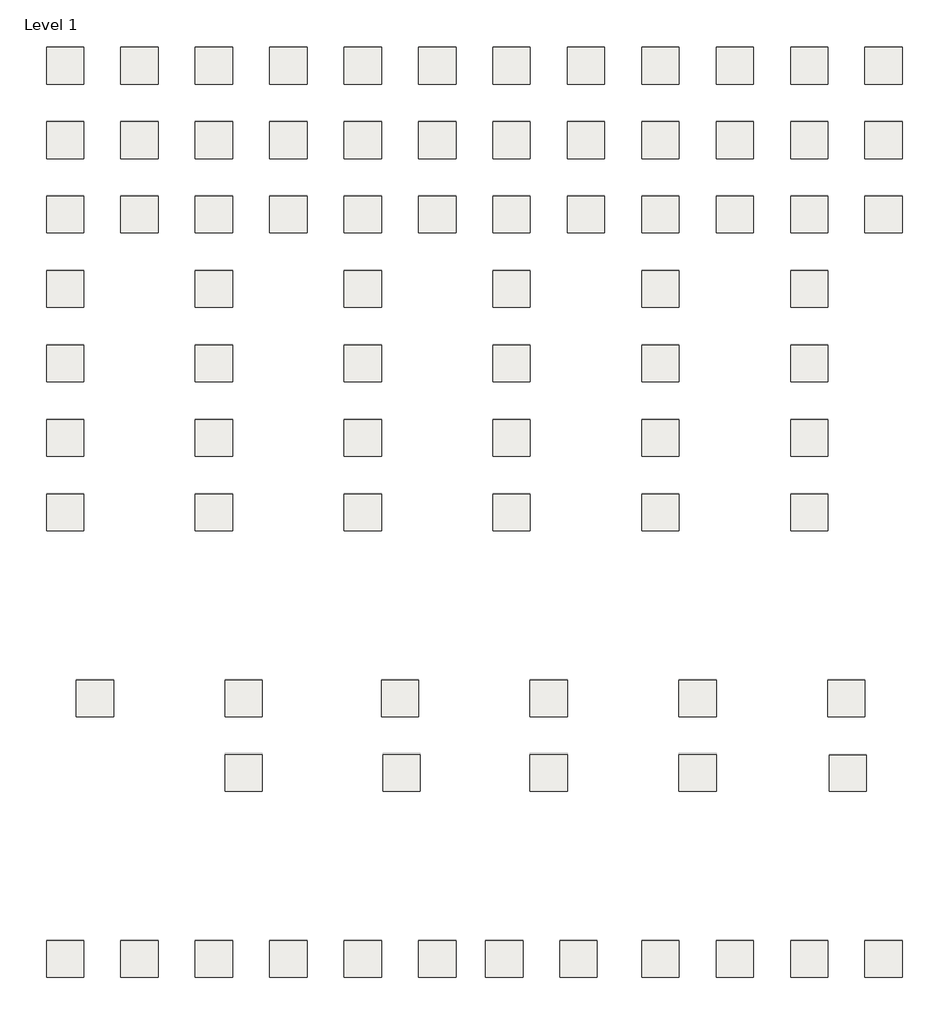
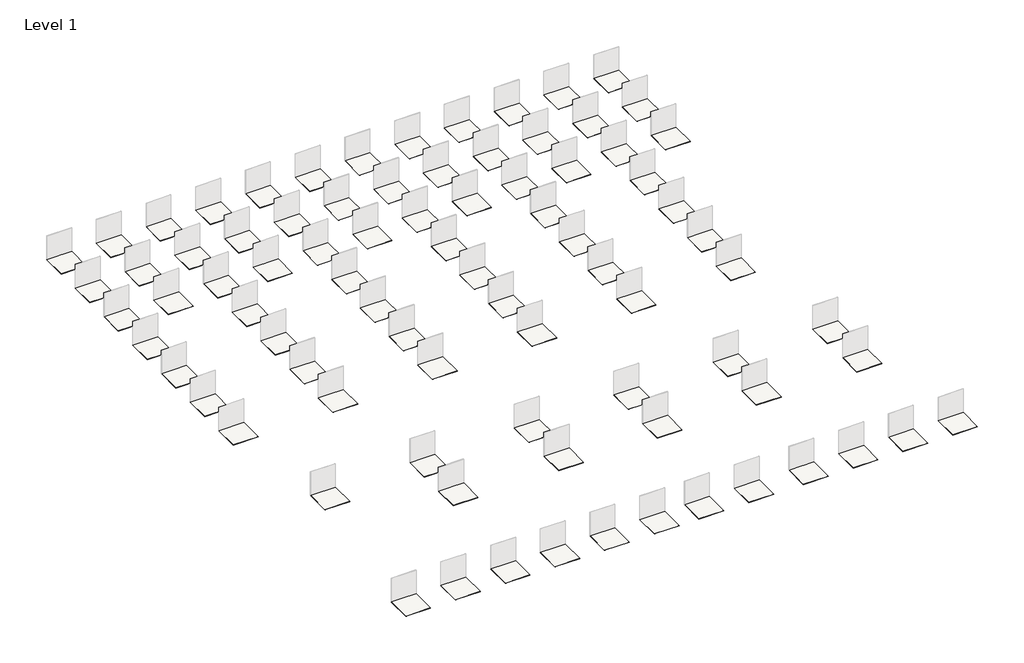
# One storey, part 2 of 2: 83 coverings.
"""IFC4 building model written with IfcOpenShell, lengths in millimetres."""

from ifc_helpers import new_model, si_unit, frame, origin, place, context, project, spatial, polyline, outline, extrude, element, save

model = new_model("IFC4")

# Units and contexts
model_context = context("Model", 3, world=origin())
ifc_project = project(units=[si_unit("LENGTHUNIT", "METRE", prefix="MILLI")], contexts=[model_context])

# Site, building, storey
site = spatial("IfcSite", under=ifc_project)
building = spatial("IfcBuilding", under=site)
storey = spatial("IfcBuildingStorey", under=building, Name="Level 1", Elevation=0.0)

# Coverings
placement = place(None, origin())
element("IfcCovering", 1, ObjectType="REVIGRES-URBAN-BASE-29,5X29,5-RECT-ANTRACITE", at=placement, inside=storey, context=model_context, shape_type="SweptSolid", body=[
    extrude(outline(polyline([(3778.642714, -1191.9242026), (3778.642714, -2191.9242026), (2778.642714, -2191.9242026), (2778.642714, -1191.9242026), (3778.642714, -1191.9242026)])), frame((0.0, 0.0, -7.7), z_axis=(0.0, 0.0, 1.0), x_axis=(1.0, 0.0, 0.0)), (0.0, 0.0, 1.0), 7.7),
])
element("IfcCovering", 2, ObjectType="REVIGRES-URBAN-BASE-30X30-NAT-ANTRACITE", at=placement, inside=storey, context=model_context, shape_type="SweptSolid", body=[
    extrude(outline(polyline([(5778.642714, -1191.9242026), (5778.642714, -2191.9242026), (4778.642714, -2191.9242026), (4778.642714, -1191.9242026), (5778.642714, -1191.9242026)])), frame((0.0, 0.0, -8.5), z_axis=(0.0, 0.0, 1.0), x_axis=(1.0, 0.0, 0.0)), (0.0, 0.0, 1.0), 8.5),
])
element("IfcCovering", 3, ObjectType="REVIGRES-URBAN-BASE-29,5X29,5-RECT-BONE", at=placement, inside=storey, context=model_context, shape_type="SweptSolid", body=[
    extrude(outline(polyline([(7778.642714, -1191.9242026), (7778.642714, -2191.9242026), (6778.642714, -2191.9242026), (6778.642714, -1191.9242026), (7778.642714, -1191.9242026)])), frame((0.0, 0.0, -7.7), z_axis=(0.0, 0.0, 1.0), x_axis=(1.0, 0.0, 0.0)), (0.0, 0.0, 1.0), 7.7),
])
element("IfcCovering", 4, ObjectType="REVIGRES-URBAN-BASE-30X30-NAT-BONE", at=placement, inside=storey, context=model_context, shape_type="SweptSolid", body=[
    extrude(outline(polyline([(9778.642714, -1191.9242026), (9778.642714, -2191.9242026), (8778.642714, -2191.9242026), (8778.642714, -1191.9242026), (9778.642714, -1191.9242026)])), frame((0.0, 0.0, -8.5), z_axis=(0.0, 0.0, 1.0), x_axis=(1.0, 0.0, 0.0)), (0.0, 0.0, 1.0), 8.5),
])
element("IfcCovering", 5, ObjectType="REVIGRES-URBAN-BASE-29,5X29,5-RECT-CRAFT", at=placement, inside=storey, context=model_context, shape_type="SweptSolid", body=[
    extrude(outline(polyline([(11778.642714, -1191.9242026), (11778.642714, -2191.9242026), (10778.642714, -2191.9242026), (10778.642714, -1191.9242026), (11778.642714, -1191.9242026)])), frame((0.0, 0.0, -7.7), z_axis=(0.0, 0.0, 1.0), x_axis=(1.0, 0.0, 0.0)), (0.0, 0.0, 1.0), 7.7),
])
element("IfcCovering", 6, ObjectType="REVIGRES-URBAN-BASE-30X30-NAT-CRAFT", at=placement, inside=storey, context=model_context, shape_type="SweptSolid", body=[
    extrude(outline(polyline([(13778.642714, -1191.9242026), (13778.642714, -2191.9242026), (12778.642714, -2191.9242026), (12778.642714, -1191.9242026), (13778.642714, -1191.9242026)])), frame((0.0, 0.0, -8.5), z_axis=(0.0, 0.0, 1.0), x_axis=(1.0, 0.0, 0.0)), (0.0, 0.0, 1.0), 8.5),
])
element("IfcCovering", 7, ObjectType="REVIGRES-URBAN-BASE-29,5X29,5-RECT-FOG", at=placement, inside=storey, context=model_context, shape_type="SweptSolid", body=[
    extrude(outline(polyline([(15778.642714, -1191.9242026), (15778.642714, -2191.9242026), (14778.642714, -2191.9242026), (14778.642714, -1191.9242026), (15778.642714, -1191.9242026)])), frame((0.0, 0.0, -7.7), z_axis=(0.0, 0.0, 1.0), x_axis=(1.0, 0.0, 0.0)), (0.0, 0.0, 1.0), 7.7),
])
element("IfcCovering", 8, ObjectType="REVIGRES-URBAN-BASE-30X30-NAT-FOG", at=placement, inside=storey, context=model_context, shape_type="SweptSolid", body=[
    extrude(outline(polyline([(17778.642714, -1191.9242026), (17778.642714, -2191.9242026), (16778.642714, -2191.9242026), (16778.642714, -1191.9242026), (17778.642714, -1191.9242026)])), frame((0.0, 0.0, -8.5), z_axis=(0.0, 0.0, 1.0), x_axis=(1.0, 0.0, 0.0)), (0.0, 0.0, 1.0), 8.5),
])
element("IfcCovering", 9, ObjectType="REVIGRES-URBAN-BASE-29,5X29,5-RECT-GRIS", at=placement, inside=storey, context=model_context, shape_type="SweptSolid", body=[
    extrude(outline(polyline([(19778.642714, -1191.9242026), (19778.642714, -2191.9242026), (18778.642714, -2191.9242026), (18778.642714, -1191.9242026), (19778.642714, -1191.9242026)])), frame((0.0, 0.0, -7.7), z_axis=(0.0, 0.0, 1.0), x_axis=(1.0, 0.0, 0.0)), (0.0, 0.0, 1.0), 7.7),
])
element("IfcCovering", 10, ObjectType="REVIGRES-URBAN-BASE-30X30-NAT-GRIS", at=placement, inside=storey, context=model_context, shape_type="SweptSolid", body=[
    extrude(outline(polyline([(21778.642714, -1191.9242026), (21778.642714, -2191.9242026), (20778.642714, -2191.9242026), (20778.642714, -1191.9242026), (21778.642714, -1191.9242026)])), frame((0.0, 0.0, -8.5), z_axis=(0.0, 0.0, 1.0), x_axis=(1.0, 0.0, 0.0)), (0.0, 0.0, 1.0), 8.5),
])
element("IfcCovering", 11, ObjectType="REVIGRES-URBAN-BASE-29,5X29,5-RECT-OFFWHITE", at=placement, inside=storey, context=model_context, shape_type="SweptSolid", body=[
    extrude(outline(polyline([(23778.642714, -1191.9242026), (23778.642714, -2191.9242026), (22778.642714, -2191.9242026), (22778.642714, -1191.9242026), (23778.642714, -1191.9242026)])), frame((0.0, 0.0, -7.7), z_axis=(0.0, 0.0, 1.0), x_axis=(1.0, 0.0, 0.0)), (0.0, 0.0, 1.0), 7.7),
])
element("IfcCovering", 12, ObjectType="REVIGRES-URBAN-BASE-29,5X59,2-RECT-ANTRACITE", at=placement, inside=storey, context=model_context, shape_type="SweptSolid", body=[
    extrude(outline(polyline([(3778.642714, -3191.9242026), (3778.642714, -4191.9242026), (2778.642714, -4191.9242026), (2778.642714, -3191.9242026), (3778.642714, -3191.9242026)])), frame((0.0, 0.0, -8.5), z_axis=(0.0, 0.0, 1.0), x_axis=(1.0, 0.0, 0.0)), (0.0, 0.0, 1.0), 8.5),
])
element("IfcCovering", 13, ObjectType="REVIGRES-URBAN-BASE-29,5X59,2-RECT-BONE", at=placement, inside=storey, context=model_context, shape_type="SweptSolid", body=[
    extrude(outline(polyline([(7778.642714, -3191.9242026), (7778.642714, -4191.9242026), (6778.642714, -4191.9242026), (6778.642714, -3191.9242026), (7778.642714, -3191.9242026)])), frame((0.0, 0.0, -8.5), z_axis=(0.0, 0.0, 1.0), x_axis=(1.0, 0.0, 0.0)), (0.0, 0.0, 1.0), 8.5),
])
element("IfcCovering", 14, ObjectType="REVIGRES-URBAN-BASE-29,5X59,2-RECT-CRAFT", at=placement, inside=storey, context=model_context, shape_type="SweptSolid", body=[
    extrude(outline(polyline([(11778.642714, -3191.9242026), (11778.642714, -4191.9242026), (10778.642714, -4191.9242026), (10778.642714, -3191.9242026), (11778.642714, -3191.9242026)])), frame((0.0, 0.0, -8.5), z_axis=(0.0, 0.0, 1.0), x_axis=(1.0, 0.0, 0.0)), (0.0, 0.0, 1.0), 8.5),
])
element("IfcCovering", 15, ObjectType="REVIGRES-URBAN-BASE-29,5X59,2-RECT-FOG", at=placement, inside=storey, context=model_context, shape_type="SweptSolid", body=[
    extrude(outline(polyline([(15778.642714, -3191.9242026), (15778.642714, -4191.9242026), (14778.642714, -4191.9242026), (14778.642714, -3191.9242026), (15778.642714, -3191.9242026)])), frame((0.0, 0.0, -8.5), z_axis=(0.0, 0.0, 1.0), x_axis=(1.0, 0.0, 0.0)), (0.0, 0.0, 1.0), 8.5),
])
element("IfcCovering", 16, ObjectType="REVIGRES-URBAN-BASE-29,5X59,2-RECT-GRIS", at=placement, inside=storey, context=model_context, shape_type="SweptSolid", body=[
    extrude(outline(polyline([(19778.642714, -3191.9242026), (19778.642714, -4191.9242026), (18778.642714, -4191.9242026), (18778.642714, -3191.9242026), (19778.642714, -3191.9242026)])), frame((0.0, 0.0, -8.5), z_axis=(0.0, 0.0, 1.0), x_axis=(1.0, 0.0, 0.0)), (0.0, 0.0, 1.0), 8.5),
])
element("IfcCovering", 17, ObjectType="REVIGRES-URBAN-BASE-29,5X59,2-RECT-OFFWHITE", at=placement, inside=storey, context=model_context, shape_type="SweptSolid", body=[
    extrude(outline(polyline([(23778.642714, -3191.9242026), (23778.642714, -4191.9242026), (22778.642714, -4191.9242026), (22778.642714, -3191.9242026), (23778.642714, -3191.9242026)])), frame((0.0, 0.0, -8.5), z_axis=(0.0, 0.0, 1.0), x_axis=(1.0, 0.0, 0.0)), (0.0, 0.0, 1.0), 8.5),
])
element("IfcCovering", 18, ObjectType="REVIGRES-URBAN-BASE-44,35X44,35-RECT-ANTRACITE", at=placement, inside=storey, context=model_context, shape_type="SweptSolid", body=[
    extrude(outline(polyline([(3778.642714, -5191.9242026), (3778.642714, -6191.9242026), (2778.642714, -6191.9242026), (2778.642714, -5191.9242026), (3778.642714, -5191.9242026)])), frame((0.0, 0.0, -8.5), z_axis=(0.0, 0.0, 1.0), x_axis=(1.0, 0.0, 0.0)), (0.0, 0.0, 1.0), 8.5),
])
element("IfcCovering", 19, ObjectType="REVIGRES-URBAN-BASE-45X45-NAT-ANTRACITE", at=placement, inside=storey, context=model_context, shape_type="SweptSolid", body=[
    extrude(outline(polyline([(5778.642714, -5191.9242026), (5778.642714, -6191.9242026), (4778.642714, -6191.9242026), (4778.642714, -5191.9242026), (5778.642714, -5191.9242026)])), frame((0.0, 0.0, -8.5), z_axis=(0.0, 0.0, 1.0), x_axis=(1.0, 0.0, 0.0)), (0.0, 0.0, 1.0), 8.5),
])
element("IfcCovering", 20, ObjectType="REVIGRES-URBAN-BASE-44,35X44,35-RECT-BONE", at=placement, inside=storey, context=model_context, shape_type="SweptSolid", body=[
    extrude(outline(polyline([(7778.642714, -5191.9242026), (7778.642714, -6191.9242026), (6778.642714, -6191.9242026), (6778.642714, -5191.9242026), (7778.642714, -5191.9242026)])), frame((0.0, 0.0, -8.5), z_axis=(0.0, 0.0, 1.0), x_axis=(1.0, 0.0, 0.0)), (0.0, 0.0, 1.0), 8.5),
])
element("IfcCovering", 21, ObjectType="REVIGRES-URBAN-BASE-45X45-NAT-BONE", at=placement, inside=storey, context=model_context, shape_type="SweptSolid", body=[
    extrude(outline(polyline([(9778.642714, -5191.9242026), (9778.642714, -6191.9242026), (8778.642714, -6191.9242026), (8778.642714, -5191.9242026), (9778.642714, -5191.9242026)])), frame((0.0, 0.0, -8.5), z_axis=(0.0, 0.0, 1.0), x_axis=(1.0, 0.0, 0.0)), (0.0, 0.0, 1.0), 8.5),
])
element("IfcCovering", 22, ObjectType="REVIGRES-URBAN-BASE-44,35X44,35-RECT-CRAFT", at=placement, inside=storey, context=model_context, shape_type="SweptSolid", body=[
    extrude(outline(polyline([(11778.642714, -5191.9242026), (11778.642714, -6191.9242026), (10778.642714, -6191.9242026), (10778.642714, -5191.9242026), (11778.642714, -5191.9242026)])), frame((0.0, 0.0, -8.5), z_axis=(0.0, 0.0, 1.0), x_axis=(1.0, 0.0, 0.0)), (0.0, 0.0, 1.0), 8.5),
])
element("IfcCovering", 23, ObjectType="REVIGRES-URBAN-BASE-45X45-NAT-CRAFT", at=placement, inside=storey, context=model_context, shape_type="SweptSolid", body=[
    extrude(outline(polyline([(13778.642714, -5191.9242026), (13778.642714, -6191.9242026), (12778.642714, -6191.9242026), (12778.642714, -5191.9242026), (13778.642714, -5191.9242026)])), frame((0.0, 0.0, -8.5), z_axis=(0.0, 0.0, 1.0), x_axis=(1.0, 0.0, 0.0)), (0.0, 0.0, 1.0), 8.5),
])
element("IfcCovering", 24, ObjectType="REVIGRES-URBAN-BASE-44,35X44,35-RECT-FOG", at=placement, inside=storey, context=model_context, shape_type="SweptSolid", body=[
    extrude(outline(polyline([(15778.642714, -5191.9242026), (15778.642714, -6191.9242026), (14778.642714, -6191.9242026), (14778.642714, -5191.9242026), (15778.642714, -5191.9242026)])), frame((0.0, 0.0, -8.5), z_axis=(0.0, 0.0, 1.0), x_axis=(1.0, 0.0, 0.0)), (0.0, 0.0, 1.0), 8.5),
])
element("IfcCovering", 25, ObjectType="REVIGRES-URBAN-BASE-45X45-NAT-FOG", at=placement, inside=storey, context=model_context, shape_type="SweptSolid", body=[
    extrude(outline(polyline([(17778.642714, -5191.9242026), (17778.642714, -6191.9242026), (16778.642714, -6191.9242026), (16778.642714, -5191.9242026), (17778.642714, -5191.9242026)])), frame((0.0, 0.0, -8.5), z_axis=(0.0, 0.0, 1.0), x_axis=(1.0, 0.0, 0.0)), (0.0, 0.0, 1.0), 8.5),
])
element("IfcCovering", 26, ObjectType="REVIGRES-URBAN-BASE-44,35X44,35-RECT-GRIS", at=placement, inside=storey, context=model_context, shape_type="SweptSolid", body=[
    extrude(outline(polyline([(19778.642714, -5191.9242026), (19778.642714, -6191.9242026), (18778.642714, -6191.9242026), (18778.642714, -5191.9242026), (19778.642714, -5191.9242026)])), frame((0.0, 0.0, -8.5), z_axis=(0.0, 0.0, 1.0), x_axis=(1.0, 0.0, 0.0)), (0.0, 0.0, 1.0), 8.5),
])
element("IfcCovering", 27, ObjectType="REVIGRES-URBAN-BASE-45X45-NAT-GRIS", at=placement, inside=storey, context=model_context, shape_type="SweptSolid", body=[
    extrude(outline(polyline([(21778.642714, -5191.9242026), (21778.642714, -6191.9242026), (20778.642714, -6191.9242026), (20778.642714, -5191.9242026), (21778.642714, -5191.9242026)])), frame((0.0, 0.0, -8.5), z_axis=(0.0, 0.0, 1.0), x_axis=(1.0, 0.0, 0.0)), (0.0, 0.0, 1.0), 8.5),
])
element("IfcCovering", 28, ObjectType="REVIGRES-URBAN-BASE-44,35X44,35-RECT-OFFWHITE", at=placement, inside=storey, context=model_context, shape_type="SweptSolid", body=[
    extrude(outline(polyline([(23778.642714, -5191.9242026), (23778.642714, -6191.9242026), (22778.642714, -6191.9242026), (22778.642714, -5191.9242026), (23778.642714, -5191.9242026)])), frame((0.0, 0.0, -8.5), z_axis=(0.0, 0.0, 1.0), x_axis=(1.0, 0.0, 0.0)), (0.0, 0.0, 1.0), 8.5),
])
element("IfcCovering", 29, ObjectType="REVIGRES-URBAN-BASE-44,35X88,9-RECT-ANTRACITE", at=placement, inside=storey, context=model_context, shape_type="SweptSolid", body=[
    extrude(outline(polyline([(3778.642714, -7191.9242026), (3778.642714, -8191.9242026), (2778.642714, -8191.9242026), (2778.642714, -7191.9242026), (3778.642714, -7191.9242026)])), frame((0.0, 0.0, -10.5), z_axis=(0.0, 0.0, 1.0), x_axis=(1.0, 0.0, 0.0)), (0.0, 0.0, 1.0), 10.5),
])
element("IfcCovering", 30, ObjectType="REVIGRES-URBAN-BASE-44,35X88,9-RECT-BONE", at=placement, inside=storey, context=model_context, shape_type="SweptSolid", body=[
    extrude(outline(polyline([(7778.642714, -7191.9242026), (7778.642714, -8191.9242026), (6778.642714, -8191.9242026), (6778.642714, -7191.9242026), (7778.642714, -7191.9242026)])), frame((0.0, 0.0, -10.5), z_axis=(0.0, 0.0, 1.0), x_axis=(1.0, 0.0, 0.0)), (0.0, 0.0, 1.0), 10.5),
])
element("IfcCovering", 31, ObjectType="REVIGRES-URBAN-BASE-44,35X88,9-RECT-CRAFT", at=placement, inside=storey, context=model_context, shape_type="SweptSolid", body=[
    extrude(outline(polyline([(11778.642714, -7191.9242026), (11778.642714, -8191.9242026), (10778.642714, -8191.9242026), (10778.642714, -7191.9242026), (11778.642714, -7191.9242026)])), frame((0.0, 0.0, -10.5), z_axis=(0.0, 0.0, 1.0), x_axis=(1.0, 0.0, 0.0)), (0.0, 0.0, 1.0), 10.5),
])
element("IfcCovering", 32, ObjectType="REVIGRES-URBAN-BASE-44,35X88,9-RECT-FOG", at=placement, inside=storey, context=model_context, shape_type="SweptSolid", body=[
    extrude(outline(polyline([(15778.642714, -7191.9242026), (15778.642714, -8191.9242026), (14778.642714, -8191.9242026), (14778.642714, -7191.9242026), (15778.642714, -7191.9242026)])), frame((0.0, 0.0, -10.5), z_axis=(0.0, 0.0, 1.0), x_axis=(1.0, 0.0, 0.0)), (0.0, 0.0, 1.0), 10.5),
])
element("IfcCovering", 33, ObjectType="REVIGRES-URBAN-BASE-44,35X88,9-RECT-GRIS", at=placement, inside=storey, context=model_context, shape_type="SweptSolid", body=[
    extrude(outline(polyline([(19778.642714, -7191.9242026), (19778.642714, -8191.9242026), (18778.642714, -8191.9242026), (18778.642714, -7191.9242026), (19778.642714, -7191.9242026)])), frame((0.0, 0.0, -10.5), z_axis=(0.0, 0.0, 1.0), x_axis=(1.0, 0.0, 0.0)), (0.0, 0.0, 1.0), 10.5),
])
element("IfcCovering", 34, ObjectType="REVIGRES-URBAN-BASE-44,35X88,9-RECT-OFFWHITE", at=placement, inside=storey, context=model_context, shape_type="SweptSolid", body=[
    extrude(outline(polyline([(23778.642714, -7191.9242026), (23778.642714, -8191.9242026), (22778.642714, -8191.9242026), (22778.642714, -7191.9242026), (23778.642714, -7191.9242026)])), frame((0.0, 0.0, -10.5), z_axis=(0.0, 0.0, 1.0), x_axis=(1.0, 0.0, 0.0)), (0.0, 0.0, 1.0), 10.5),
])
element("IfcCovering", 35, ObjectType="REVIGRES-URBAN-BASE-59,2X59,2-RECT-ANTRACITE", at=placement, inside=storey, context=model_context, shape_type="SweptSolid", body=[
    extrude(outline(polyline([(3778.642714, -9191.9242026), (3778.642714, -10191.9242026), (2778.642714, -10191.9242026), (2778.642714, -9191.9242026), (3778.642714, -9191.9242026)])), frame((0.0, 0.0, -10.5), z_axis=(0.0, 0.0, 1.0), x_axis=(1.0, 0.0, 0.0)), (0.0, 0.0, 1.0), 10.5),
])
element("IfcCovering", 36, ObjectType="REVIGRES-URBAN-BASE-59,2X59,2-RECT-BONE", at=placement, inside=storey, context=model_context, shape_type="SweptSolid", body=[
    extrude(outline(polyline([(7778.642714, -9191.9242026), (7778.642714, -10191.9242026), (6778.642714, -10191.9242026), (6778.642714, -9191.9242026), (7778.642714, -9191.9242026)])), frame((0.0, 0.0, -10.5), z_axis=(0.0, 0.0, 1.0), x_axis=(1.0, 0.0, 0.0)), (0.0, 0.0, 1.0), 10.5),
])
element("IfcCovering", 37, ObjectType="REVIGRES-URBAN-BASE-59,2X59,2-RECT-CRAFT", at=placement, inside=storey, context=model_context, shape_type="SweptSolid", body=[
    extrude(outline(polyline([(11778.642714, -9191.9242026), (11778.642714, -10191.9242026), (10778.642714, -10191.9242026), (10778.642714, -9191.9242026), (11778.642714, -9191.9242026)])), frame((0.0, 0.0, -10.5), z_axis=(0.0, 0.0, 1.0), x_axis=(1.0, 0.0, 0.0)), (0.0, 0.0, 1.0), 10.5),
])
element("IfcCovering", 38, ObjectType="REVIGRES-URBAN-BASE-59,2X59,2-RECT-FOG", at=placement, inside=storey, context=model_context, shape_type="SweptSolid", body=[
    extrude(outline(polyline([(15778.642714, -9191.9242026), (15778.642714, -10191.9242026), (14778.642714, -10191.9242026), (14778.642714, -9191.9242026), (15778.642714, -9191.9242026)])), frame((0.0, 0.0, -10.5), z_axis=(0.0, 0.0, 1.0), x_axis=(1.0, 0.0, 0.0)), (0.0, 0.0, 1.0), 10.5),
])
element("IfcCovering", 39, ObjectType="REVIGRES-URBAN-BASE-59,2X59,2-RECT-GRIS", at=placement, inside=storey, context=model_context, shape_type="SweptSolid", body=[
    extrude(outline(polyline([(19778.642714, -9191.9242026), (19778.642714, -10191.9242026), (18778.642714, -10191.9242026), (18778.642714, -9191.9242026), (19778.642714, -9191.9242026)])), frame((0.0, 0.0, -10.5), z_axis=(0.0, 0.0, 1.0), x_axis=(1.0, 0.0, 0.0)), (0.0, 0.0, 1.0), 10.5),
])
element("IfcCovering", 40, ObjectType="REVIGRES-URBAN-BASE-59,2X59,2-RECT-OFFWHITE", at=placement, inside=storey, context=model_context, shape_type="SweptSolid", body=[
    extrude(outline(polyline([(23778.642714, -9191.9242026), (23778.642714, -10191.9242026), (22778.642714, -10191.9242026), (22778.642714, -9191.9242026), (23778.642714, -9191.9242026)])), frame((0.0, 0.0, -10.5), z_axis=(0.0, 0.0, 1.0), x_axis=(1.0, 0.0, 0.0)), (0.0, 0.0, 1.0), 10.5),
])
element("IfcCovering", 41, ObjectType="REVIGRES-URBAN-BASE-59,2X118,6-RECT-ANTRACITE", at=placement, inside=storey, context=model_context, shape_type="SweptSolid", body=[
    extrude(outline(polyline([(3778.642714, -11191.9242026), (3778.642714, -12191.9242026), (2778.642714, -12191.9242026), (2778.642714, -11191.9242026), (3778.642714, -11191.9242026)])), frame((0.0, 0.0, -9.8), z_axis=(0.0, 0.0, 1.0), x_axis=(1.0, 0.0, 0.0)), (0.0, 0.0, 1.0), 9.8),
])
element("IfcCovering", 42, ObjectType="REVIGRES-URBAN-BASE-59,2X118,6-RECT-BONE", at=placement, inside=storey, context=model_context, shape_type="SweptSolid", body=[
    extrude(outline(polyline([(7778.642714, -11191.9242026), (7778.642714, -12191.9242026), (6778.642714, -12191.9242026), (6778.642714, -11191.9242026), (7778.642714, -11191.9242026)])), frame((0.0, 0.0, -9.8), z_axis=(0.0, 0.0, 1.0), x_axis=(1.0, 0.0, 0.0)), (0.0, 0.0, 1.0), 9.8),
])
element("IfcCovering", 43, ObjectType="REVIGRES-URBAN-BASE-59,2X118,6-RECT-CRAFT", at=placement, inside=storey, context=model_context, shape_type="SweptSolid", body=[
    extrude(outline(polyline([(11778.642714, -11191.9242026), (11778.642714, -12191.9242026), (10778.642714, -12191.9242026), (10778.642714, -11191.9242026), (11778.642714, -11191.9242026)])), frame((0.0, 0.0, -9.8), z_axis=(0.0, 0.0, 1.0), x_axis=(1.0, 0.0, 0.0)), (0.0, 0.0, 1.0), 9.8),
])
element("IfcCovering", 44, ObjectType="REVIGRES-URBAN-BASE-59,2X118,6-RECT-FOG", at=placement, inside=storey, context=model_context, shape_type="SweptSolid", body=[
    extrude(outline(polyline([(15778.642714, -11191.9242026), (15778.642714, -12191.9242026), (14778.642714, -12191.9242026), (14778.642714, -11191.9242026), (15778.642714, -11191.9242026)])), frame((0.0, 0.0, -9.8), z_axis=(0.0, 0.0, 1.0), x_axis=(1.0, 0.0, 0.0)), (0.0, 0.0, 1.0), 9.8),
])
element("IfcCovering", 45, ObjectType="REVIGRES-URBAN-BASE-59,2X118,6-RECT-GRIS", at=placement, inside=storey, context=model_context, shape_type="SweptSolid", body=[
    extrude(outline(polyline([(19778.642714, -11191.9242026), (19778.642714, -12191.9242026), (18778.642714, -12191.9242026), (18778.642714, -11191.9242026), (19778.642714, -11191.9242026)])), frame((0.0, 0.0, -9.8), z_axis=(0.0, 0.0, 1.0), x_axis=(1.0, 0.0, 0.0)), (0.0, 0.0, 1.0), 9.8),
])
element("IfcCovering", 46, ObjectType="REVIGRES-URBAN-BASE-59,2X118,6-RECT-OFFWHITE", at=placement, inside=storey, context=model_context, shape_type="SweptSolid", body=[
    extrude(outline(polyline([(23778.642714, -11191.9242026), (23778.642714, -12191.9242026), (22778.642714, -12191.9242026), (22778.642714, -11191.9242026), (23778.642714, -11191.9242026)])), frame((0.0, 0.0, -9.8), z_axis=(0.0, 0.0, 1.0), x_axis=(1.0, 0.0, 0.0)), (0.0, 0.0, 1.0), 9.8),
])
element("IfcCovering", 47, ObjectType="REVIGRES-URBAN-BASE-88,9X88,9-RECT-ANTRACITE", at=placement, inside=storey, context=model_context, shape_type="SweptSolid", body=[
    extrude(outline(polyline([(3778.642714, -13191.9242026), (3778.642714, -14191.9242026), (2778.642714, -14191.9242026), (2778.642714, -13191.9242026), (3778.642714, -13191.9242026)])), frame((0.0, 0.0, -10.5), z_axis=(0.0, 0.0, 1.0), x_axis=(1.0, 0.0, 0.0)), (0.0, 0.0, 1.0), 10.5),
])
element("IfcCovering", 48, ObjectType="REVIGRES-URBAN-BASE-88,9X88,9-RECT-BONE", at=placement, inside=storey, context=model_context, shape_type="SweptSolid", body=[
    extrude(outline(polyline([(7778.642714, -13191.9242026), (7778.642714, -14191.9242026), (6778.642714, -14191.9242026), (6778.642714, -13191.9242026), (7778.642714, -13191.9242026)])), frame((0.0, 0.0, -10.5), z_axis=(0.0, 0.0, 1.0), x_axis=(1.0, 0.0, 0.0)), (0.0, 0.0, 1.0), 10.5),
])
element("IfcCovering", 49, ObjectType="REVIGRES-URBAN-BASE-88,9X88,9-RECT-CRAFT", at=placement, inside=storey, context=model_context, shape_type="SweptSolid", body=[
    extrude(outline(polyline([(11778.642714, -13191.9242026), (11778.642714, -14191.9242026), (10778.642714, -14191.9242026), (10778.642714, -13191.9242026), (11778.642714, -13191.9242026)])), frame((0.0, 0.0, -10.5), z_axis=(0.0, 0.0, 1.0), x_axis=(1.0, 0.0, 0.0)), (0.0, 0.0, 1.0), 10.5),
])
element("IfcCovering", 50, ObjectType="REVIGRES-URBAN-BASE-88,9X88,9-RECT-FOG", at=placement, inside=storey, context=model_context, shape_type="SweptSolid", body=[
    extrude(outline(polyline([(15778.642714, -13191.9242026), (15778.642714, -14191.9242026), (14778.642714, -14191.9242026), (14778.642714, -13191.9242026), (15778.642714, -13191.9242026)])), frame((0.0, 0.0, -10.5), z_axis=(0.0, 0.0, 1.0), x_axis=(1.0, 0.0, 0.0)), (0.0, 0.0, 1.0), 10.5),
])
element("IfcCovering", 51, ObjectType="REVIGRES-URBAN-BASE-88,9X88,9-RECT-GRIS", at=placement, inside=storey, context=model_context, shape_type="SweptSolid", body=[
    extrude(outline(polyline([(19778.642714, -13191.9242026), (19778.642714, -14191.9242026), (18778.642714, -14191.9242026), (18778.642714, -13191.9242026), (19778.642714, -13191.9242026)])), frame((0.0, 0.0, -10.5), z_axis=(0.0, 0.0, 1.0), x_axis=(1.0, 0.0, 0.0)), (0.0, 0.0, 1.0), 10.5),
])
element("IfcCovering", 52, ObjectType="REVIGRES-URBAN-BASE-88,9X88,9-RECT-OFFWHITE", at=placement, inside=storey, context=model_context, shape_type="SweptSolid", body=[
    extrude(outline(polyline([(23778.642714, -13191.9242026), (23778.642714, -14191.9242026), (22778.642714, -14191.9242026), (22778.642714, -13191.9242026), (23778.642714, -13191.9242026)])), frame((0.0, 0.0, -10.5), z_axis=(0.0, 0.0, 1.0), x_axis=(1.0, 0.0, 0.0)), (0.0, 0.0, 1.0), 10.5),
])
element("IfcCovering", 53, ObjectType="REVIGRES-URBAN-BASE-30X30-NAT-OFFWHITE", at=placement, inside=storey, context=model_context, shape_type="SweptSolid", body=[
    extrude(outline(polyline([(25778.642714, -1191.9242026), (25778.642714, -2191.9242026), (24778.642714, -2191.9242026), (24778.642714, -1191.9242026), (25778.642714, -1191.9242026)])), frame((0.0, 0.0, -8.5), z_axis=(0.0, 0.0, 1.0), x_axis=(1.0, 0.0, 0.0)), (0.0, 0.0, 1.0), 8.5),
])
element("IfcCovering", 54, ObjectType="REVIGRES-URBAN-BASE-45X45-NAT-OFFWHITE", at=placement, inside=storey, context=model_context, shape_type="SweptSolid", body=[
    extrude(outline(polyline([(25778.642714, -5191.9242026), (25778.642714, -6191.9242026), (24778.642714, -6191.9242026), (24778.642714, -5191.9242026), (25778.642714, -5191.9242026)])), frame((0.0, 0.0, -8.5), z_axis=(0.0, 0.0, 1.0), x_axis=(1.0, 0.0, 0.0)), (0.0, 0.0, 1.0), 8.5),
])
element("IfcCovering", 55, ObjectType="REVIGRES-URBAN-BASE-30X60-NAT-ANTRACITE", at=placement, inside=storey, context=model_context, shape_type="SweptSolid", body=[
    extrude(outline(polyline([(5778.642714, -3191.9242026), (5778.642714, -4191.9242026), (4778.642714, -4191.9242026), (4778.642714, -3191.9242026), (5778.642714, -3191.9242026)])), frame((0.0, 0.0, -8.5), z_axis=(0.0, 0.0, 1.0), x_axis=(1.0, 0.0, 0.0)), (0.0, 0.0, 1.0), 8.5),
])
element("IfcCovering", 56, ObjectType="REVIGRES-URBAN-BASE-30X60-NAT-BONE", at=placement, inside=storey, context=model_context, shape_type="SweptSolid", body=[
    extrude(outline(polyline([(9778.642714, -3191.9242026), (9778.642714, -4191.9242026), (8778.642714, -4191.9242026), (8778.642714, -3191.9242026), (9778.642714, -3191.9242026)])), frame((0.0, 0.0, -8.5), z_axis=(0.0, 0.0, 1.0), x_axis=(1.0, 0.0, 0.0)), (0.0, 0.0, 1.0), 8.5),
])
element("IfcCovering", 57, ObjectType="REVIGRES-URBAN-BASE-30X60-NAT-CRAFT", at=placement, inside=storey, context=model_context, shape_type="SweptSolid", body=[
    extrude(outline(polyline([(13778.642714, -3191.9242026), (13778.642714, -4191.9242026), (12778.642714, -4191.9242026), (12778.642714, -3191.9242026), (13778.642714, -3191.9242026)])), frame((0.0, 0.0, -8.5), z_axis=(0.0, 0.0, 1.0), x_axis=(1.0, 0.0, 0.0)), (0.0, 0.0, 1.0), 8.5),
])
element("IfcCovering", 58, ObjectType="REVIGRES-URBAN-BASE-30X60-NAT-FOG", at=placement, inside=storey, context=model_context, shape_type="SweptSolid", body=[
    extrude(outline(polyline([(17778.642714, -3191.9242026), (17778.642714, -4191.9242026), (16778.642714, -4191.9242026), (16778.642714, -3191.9242026), (17778.642714, -3191.9242026)])), frame((0.0, 0.0, -8.5), z_axis=(0.0, 0.0, 1.0), x_axis=(1.0, 0.0, 0.0)), (0.0, 0.0, 1.0), 8.5),
])
element("IfcCovering", 59, ObjectType="REVIGRES-URBAN-BASE-30X60-NAT-GRIS", at=placement, inside=storey, context=model_context, shape_type="SweptSolid", body=[
    extrude(outline(polyline([(21778.642714, -3191.9242026), (21778.642714, -4191.9242026), (20778.642714, -4191.9242026), (20778.642714, -3191.9242026), (21778.642714, -3191.9242026)])), frame((0.0, 0.0, -8.5), z_axis=(0.0, 0.0, 1.0), x_axis=(1.0, 0.0, 0.0)), (0.0, 0.0, 1.0), 8.5),
])
element("IfcCovering", 60, ObjectType="REVIGRES-URBAN-BASE-30X60-NAT-OFFWHITE", at=placement, inside=storey, context=model_context, shape_type="SweptSolid", body=[
    extrude(outline(polyline([(25778.642714, -3191.9242026), (25778.642714, -4191.9242026), (24778.642714, -4191.9242026), (24778.642714, -3191.9242026), (25778.642714, -3191.9242026)])), frame((0.0, 0.0, -8.5), z_axis=(0.0, 0.0, 1.0), x_axis=(1.0, 0.0, 0.0)), (0.0, 0.0, 1.0), 8.5),
])
element("IfcCovering", 61, ObjectType="REVIGRES-URBAN-BASE-59,2X59,2-ANTISLIPRECT- ANTRACITE", at=placement, inside=storey, context=model_context, shape_type="SweptSolid", body=[
    extrude(outline(polyline([(4578.642714, -18191.9242026), (4578.642714, -19191.9242026), (3578.642714, -19191.9242026), (3578.642714, -18191.9242026), (4578.642714, -18191.9242026)])), frame((0.0, 0.0, -10.5), z_axis=(0.0, 0.0, 1.0), x_axis=(1.0, 0.0, 0.0)), (0.0, 0.0, 1.0), 10.5),
])
element("IfcCovering", 62, ObjectType="REVIGRES-URBAN-BASE-59,2X59,2-ANTISLIPRECT- BONE", at=placement, inside=storey, context=model_context, shape_type="SweptSolid", body=[
    extrude(outline(polyline([(8578.3955056, -18191.9242026), (8578.3955056, -19191.9242026), (7578.3955056, -19191.9242026), (7578.3955056, -18191.9242026), (8578.3955056, -18191.9242026)])), frame((0.0, 0.0, -10.5), z_axis=(0.0, 0.0, 1.0), x_axis=(1.0, 0.0, 0.0)), (0.0, 0.0, 1.0), 10.5),
])
element("IfcCovering", 63, ObjectType="REVIGRES-URBAN-BASE-59,2X59,2-ANTISLIPRECT- CRAFT", at=placement, inside=storey, context=model_context, shape_type="SweptSolid", body=[
    extrude(outline(polyline([(12778.642714, -18191.9242026), (12778.642714, -19191.9242026), (11778.642714, -19191.9242026), (11778.642714, -18191.9242026), (12778.642714, -18191.9242026)])), frame((0.0, 0.0, -10.5), z_axis=(0.0, 0.0, 1.0), x_axis=(1.0, 0.0, 0.0)), (0.0, 0.0, 1.0), 10.5),
])
element("IfcCovering", 64, ObjectType="REVIGRES-URBAN-BASE-59,2X59,2-ANTISLIPRECT- FOG", at=placement, inside=storey, context=model_context, shape_type="SweptSolid", body=[
    extrude(outline(polyline([(16778.642714, -18191.9242026), (16778.642714, -19191.9242026), (15778.642714, -19191.9242026), (15778.642714, -18191.9242026), (16778.642714, -18191.9242026)])), frame((0.0, 0.0, -10.5), z_axis=(0.0, 0.0, 1.0), x_axis=(1.0, 0.0, 0.0)), (0.0, 0.0, 1.0), 10.5),
])
element("IfcCovering", 65, ObjectType="REVIGRES-URBAN-BASE-59,2X59,2-ANTISLIPRECT- GRIS", at=placement, inside=storey, context=model_context, shape_type="SweptSolid", body=[
    extrude(outline(polyline([(20778.642714, -18191.9242026), (20778.642714, -19191.9242026), (19778.642714, -19191.9242026), (19778.642714, -18191.9242026), (20778.642714, -18191.9242026)])), frame((0.0, 0.0, -10.5), z_axis=(0.0, 0.0, 1.0), x_axis=(1.0, 0.0, 0.0)), (0.0, 0.0, 1.0), 10.5),
])
element("IfcCovering", 66, ObjectType="REVIGRES-URBAN-BASE-59,2X59,2-ANTISLIPRECT- OFFWHITE", at=placement, inside=storey, context=model_context, shape_type="SweptSolid", body=[
    extrude(outline(polyline([(24778.642714, -18191.9242026), (24778.642714, -19191.9242026), (23778.642714, -19191.9242026), (23778.642714, -18191.9242026), (24778.642714, -18191.9242026)])), frame((0.0, 0.0, -10.5), z_axis=(0.0, 0.0, 1.0), x_axis=(1.0, 0.0, 0.0)), (0.0, 0.0, 1.0), 10.5),
])
element("IfcCovering", 67, ObjectType="REVIGRES-URBAN-BASE-44,35X44,35-RECT HYDRAULIK ANTRACITE", at=placement, inside=storey, context=model_context, shape_type="SweptSolid", body=[
    extrude(outline(polyline([(3778.642714, -25191.9242026), (3778.642714, -26191.9242026), (2778.642714, -26191.9242026), (2778.642714, -25191.9242026), (3778.642714, -25191.9242026)])), frame((0.0, 0.0, -8.5), z_axis=(0.0, 0.0, 1.0), x_axis=(1.0, 0.0, 0.0)), (0.0, 0.0, 1.0), 8.5),
])
element("IfcCovering", 68, ObjectType="REVIGRES-URBAN-BASE-45X45-NAT HYDRAULIK ANTRACITE", at=placement, inside=storey, context=model_context, shape_type="SweptSolid", body=[
    extrude(outline(polyline([(5778.642714, -25191.9242026), (5778.642714, -26191.9242026), (4778.642714, -26191.9242026), (4778.642714, -25191.9242026), (5778.642714, -25191.9242026)])), frame((0.0, 0.0, -8.5), z_axis=(0.0, 0.0, 1.0), x_axis=(1.0, 0.0, 0.0)), (0.0, 0.0, 1.0), 8.5),
])
element("IfcCovering", 69, ObjectType="REVIGRES-URBAN-BASE-44,35X44,35-RECT HYDRAULIK BONE", at=placement, inside=storey, context=model_context, shape_type="SweptSolid", body=[
    extrude(outline(polyline([(7778.642714, -25191.9242026), (7778.642714, -26191.9242026), (6778.642714, -26191.9242026), (6778.642714, -25191.9242026), (7778.642714, -25191.9242026)])), frame((0.0, 0.0, -8.5), z_axis=(0.0, 0.0, 1.0), x_axis=(1.0, 0.0, 0.0)), (0.0, 0.0, 1.0), 8.5),
])
element("IfcCovering", 70, ObjectType="REVIGRES-URBAN-BASE-45X45-NAT HYDRAULIK BONE", at=placement, inside=storey, context=model_context, shape_type="SweptSolid", body=[
    extrude(outline(polyline([(9778.642714, -25191.9242026), (9778.642714, -26191.9242026), (8778.642714, -26191.9242026), (8778.642714, -25191.9242026), (9778.642714, -25191.9242026)])), frame((0.0, 0.0, -8.5), z_axis=(0.0, 0.0, 1.0), x_axis=(1.0, 0.0, 0.0)), (0.0, 0.0, 1.0), 8.5),
])
element("IfcCovering", 71, ObjectType="REVIGRES-URBAN-BASE-44,35X44,35-RECT HYDRAULIK CRAFT", at=placement, inside=storey, context=model_context, shape_type="SweptSolid", body=[
    extrude(outline(polyline([(11778.642714, -25191.9242026), (11778.642714, -26191.9242026), (10778.642714, -26191.9242026), (10778.642714, -25191.9242026), (11778.642714, -25191.9242026)])), frame((0.0, 0.0, -8.5), z_axis=(0.0, 0.0, 1.0), x_axis=(1.0, 0.0, 0.0)), (0.0, 0.0, 1.0), 8.5),
])
element("IfcCovering", 72, ObjectType="REVIGRES-URBAN-BASE-45X45-NAT HYDRAULIK CRAFT", at=placement, inside=storey, context=model_context, shape_type="SweptSolid", body=[
    extrude(outline(polyline([(13778.642714, -25191.9242026), (13778.642714, -26191.9242026), (12778.642714, -26191.9242026), (12778.642714, -25191.9242026), (13778.642714, -25191.9242026)])), frame((0.0, 0.0, -8.5), z_axis=(0.0, 0.0, 1.0), x_axis=(1.0, 0.0, 0.0)), (0.0, 0.0, 1.0), 8.5),
])
element("IfcCovering", 73, ObjectType="REVIGRES-URBAN-BASE-44,35X44,35-RECT HYDRAULIK FOG", at=placement, inside=storey, context=model_context, shape_type="SweptSolid", body=[
    extrude(outline(polyline([(15578.642714, -25191.9242026), (15578.642714, -26191.9242026), (14578.642714, -26191.9242026), (14578.642714, -25191.9242026), (15578.642714, -25191.9242026)])), frame((0.0, 0.0, -8.5), z_axis=(0.0, 0.0, 1.0), x_axis=(1.0, 0.0, 0.0)), (0.0, 0.0, 1.0), 8.5),
])
element("IfcCovering", 74, ObjectType="REVIGRES-URBAN-BASE-45X45-NAT HYDRAULIK FOG", at=placement, inside=storey, context=model_context, shape_type="SweptSolid", body=[
    extrude(outline(polyline([(17578.642714, -25191.9242026), (17578.642714, -26191.9242026), (16578.642714, -26191.9242026), (16578.642714, -25191.9242026), (17578.642714, -25191.9242026)])), frame((0.0, 0.0, -8.5), z_axis=(0.0, 0.0, 1.0), x_axis=(1.0, 0.0, 0.0)), (0.0, 0.0, 1.0), 8.5),
])
element("IfcCovering", 75, ObjectType="REVIGRES-URBAN-BASE-44,35X44,35-RECT HYDRAULIK GRIS", at=placement, inside=storey, context=model_context, shape_type="SweptSolid", body=[
    extrude(outline(polyline([(19778.642714, -25191.9242026), (19778.642714, -26191.9242026), (18778.642714, -26191.9242026), (18778.642714, -25191.9242026), (19778.642714, -25191.9242026)])), frame((0.0, 0.0, -8.5), z_axis=(0.0, 0.0, 1.0), x_axis=(1.0, 0.0, 0.0)), (0.0, 0.0, 1.0), 8.5),
])
element("IfcCovering", 76, ObjectType="REVIGRES-URBAN-BASE-45X45-NAT HYDRAULIK GRIS", at=placement, inside=storey, context=model_context, shape_type="SweptSolid", body=[
    extrude(outline(polyline([(21778.642714, -25191.9242026), (21778.642714, -26191.9242026), (20778.642714, -26191.9242026), (20778.642714, -25191.9242026), (21778.642714, -25191.9242026)])), frame((0.0, 0.0, -8.5), z_axis=(0.0, 0.0, 1.0), x_axis=(1.0, 0.0, 0.0)), (0.0, 0.0, 1.0), 8.5),
])
element("IfcCovering", 77, ObjectType="REVIGRES-URBAN-BASE-44,35X44,35-RECT HYDRAULIK OFFWHITE", at=placement, inside=storey, context=model_context, shape_type="SweptSolid", body=[
    extrude(outline(polyline([(23778.642714, -25191.9242026), (23778.642714, -26191.9242026), (22778.642714, -26191.9242026), (22778.642714, -25191.9242026), (23778.642714, -25191.9242026)])), frame((0.0, 0.0, -8.5), z_axis=(0.0, 0.0, 1.0), x_axis=(1.0, 0.0, 0.0)), (0.0, 0.0, 1.0), 8.5),
])
element("IfcCovering", 78, ObjectType="REVIGRES-URBAN-BASE-45X45-NAT HYDRAULIK OFFWHITE", at=placement, inside=storey, context=model_context, shape_type="SweptSolid", body=[
    extrude(outline(polyline([(25778.642714, -25191.9242026), (25778.642714, -26191.9242026), (24778.642714, -26191.9242026), (24778.642714, -25191.9242026), (25778.642714, -25191.9242026)])), frame((0.0, 0.0, -8.5), z_axis=(0.0, 0.0, 1.0), x_axis=(1.0, 0.0, 0.0)), (0.0, 0.0, 1.0), 8.5),
])
element("IfcCovering", 79, ObjectType="REVIGRES-URBAN-BASE-59,2X59,2-ANTISLIPRECT-BONE-TECH20", at=placement, inside=storey, context=model_context, shape_type="SweptSolid", body=[
    extrude(outline(polyline([(8578.3955056, -20191.9242026), (8578.3955056, -21191.9242026), (7578.3955056, -21191.9242026), (7578.3955056, -20191.9242026), (8578.3955056, -20191.9242026)])), frame((0.0, 0.0, -20.0), z_axis=(0.0, 0.0, 1.0), x_axis=(1.0, 0.0, 0.0)), (0.0, 0.0, 1.0), 20.0),
])
element("IfcCovering", 80, ObjectType="REVIGRES-URBAN-BASE-59,2X59,2-ANTISLIPRECT-FOG-TECH20", at=placement, inside=storey, context=model_context, shape_type="SweptSolid", body=[
    extrude(outline(polyline([(16778.642714, -20191.9242026), (16778.642714, -21191.9242026), (15778.642714, -21191.9242026), (15778.642714, -20191.9242026), (16778.642714, -20191.9242026)])), frame((0.0, 0.0, -20.0), z_axis=(0.0, 0.0, 1.0), x_axis=(1.0, 0.0, 0.0)), (0.0, 0.0, 1.0), 20.0),
])
element("IfcCovering", 81, ObjectType="REVIGRES-URBAN-BASE-59,2X59,2-ANTISLIPRECT-GRIS-TECH20", at=placement, inside=storey, context=model_context, shape_type="SweptSolid", body=[
    extrude(outline(polyline([(20778.642714, -20191.9242026), (20778.642714, -21191.9242026), (19778.642714, -21191.9242026), (19778.642714, -20191.9242026), (20778.642714, -20191.9242026)])), frame((0.0, 0.0, -20.0), z_axis=(0.0, 0.0, 1.0), x_axis=(1.0, 0.0, 0.0)), (0.0, 0.0, 1.0), 20.0),
])
element("IfcCovering", 82, ObjectType="REVIGRES-URBAN-BASE-59,2X59,2-ANTISLIPRECT-CRAFT-TECH20", at=placement, inside=storey, context=model_context, shape_type="SweptSolid", body=[
    extrude(outline(polyline([(12818.3955056, -20191.9242026), (12818.3955056, -21191.9242026), (11818.3955056, -21191.9242026), (11818.3955056, -20191.9242026), (12818.3955056, -20191.9242026)])), frame((0.0, 0.0, -20.0), z_axis=(0.0, 0.0, 1.0), x_axis=(1.0, 0.0, 0.0)), (0.0, 0.0, 1.0), 20.0),
])
element("IfcCovering", 83, ObjectType="REVIGRES-URBAN-BASE-59,2X59,2-ANTISLIPRECT-OFFWHITE-TECH20", at=placement, inside=storey, context=model_context, shape_type="SweptSolid", body=[
    extrude(outline(polyline([(24818.3955056, -20191.9242026), (24818.3955056, -21191.9242026), (23818.3955056, -21191.9242026), (23818.3955056, -20191.9242026), (24818.3955056, -20191.9242026)])), frame((0.0, 0.0, -20.0), z_axis=(0.0, 0.0, 1.0), x_axis=(1.0, 0.0, 0.0)), (0.0, 0.0, 1.0), 20.0),
])

save(model, "model.ifc")
